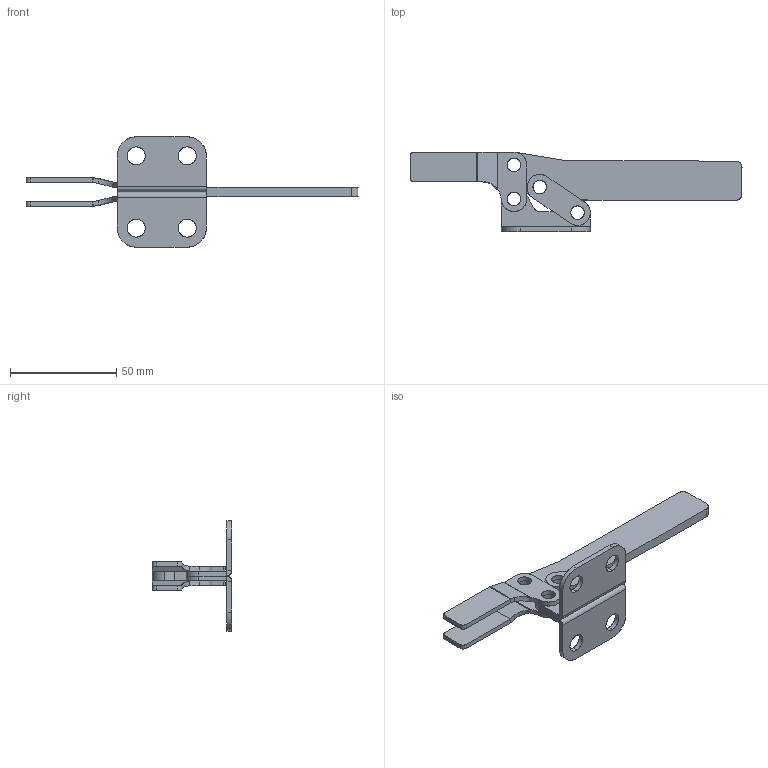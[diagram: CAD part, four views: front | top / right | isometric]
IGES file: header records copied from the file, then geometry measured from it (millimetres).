
Start section: SolidWorks IGES file using analytic representation for surfaces
Global section: file name: D:\GH Files\GH-SW-FILES\GH2\21382\21382.IGS; native system: SolidWorks 2007; preprocessor: SolidWorks 2007; author: Administrator; date: 061018.164405; units: millimetre
Bounding box: 156.5 x 37.51 x 52 mm (x, y, z)
Surface area: 18083.3 mm2 (no closed solid volume)
Topology: 0 solids, 0 shells, 161 faces, 2460 edges, 2460 vertices
Faces by surface type: revolution 84, bspline 77
